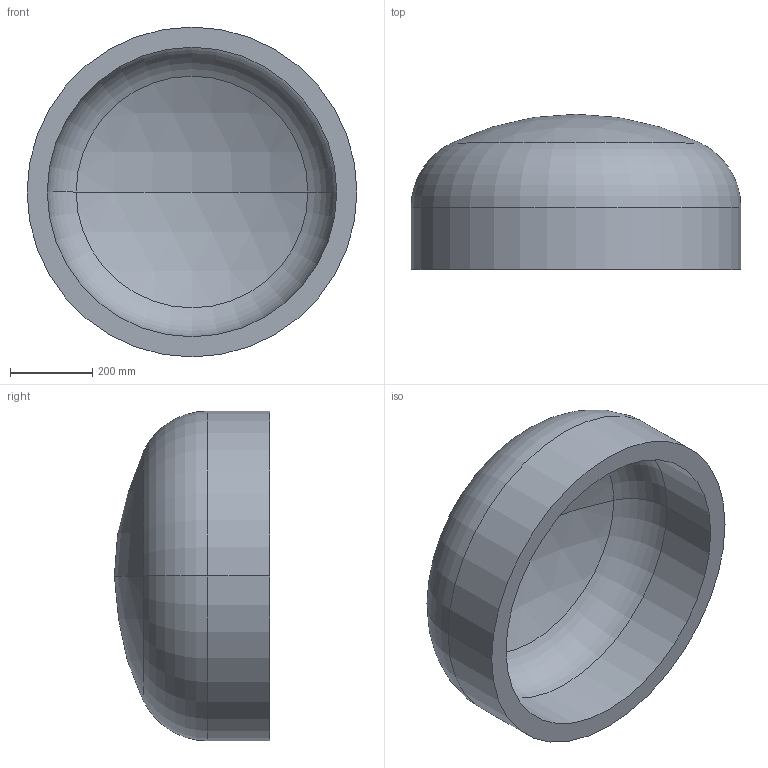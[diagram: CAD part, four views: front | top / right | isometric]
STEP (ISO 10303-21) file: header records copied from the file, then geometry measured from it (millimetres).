
FILE_DESCRIPTION (( 'STEP AP203' ), '1' );
FILE_NAME ('DIN 28013 Korbbogenform_-_Boden DIN 28013 - 800 x 150 - I - s=49.step', '2016-07-01T08:18:15', ( '' ), ( '' ), 'SwSTEP 2.0', 'SolidWorks 2013', '' );
FILE_SCHEMA (( 'CONFIG_CONTROL_DESIGN' ));
Length unit declared in the file: millimetre
Products named in the file (1): DIN 28013 Korbbogenform_-_Boden DIN 28013 - 800 x 150 - I - s=49
Bounding box: 800 x 376.24 x 800 mm (x, y, z)
Volume: 48989162.9 mm3; surface area: 2120193.4 mm2
Topology: 1 solids, 1 shells, 13 faces, 24 edges, 14 vertices
Faces by surface type: torus 4, cylinder 4, sphere 4, plane 1
Entity records: 407 total; most frequent: DIRECTION 72, CARTESIAN_POINT 52, ORIENTED_EDGE 48, AXIS2_PLACEMENT_3D 34, EDGE_CURVE 24, CIRCLE 20, EDGE_LOOP 14, VERTEX_POINT 14
